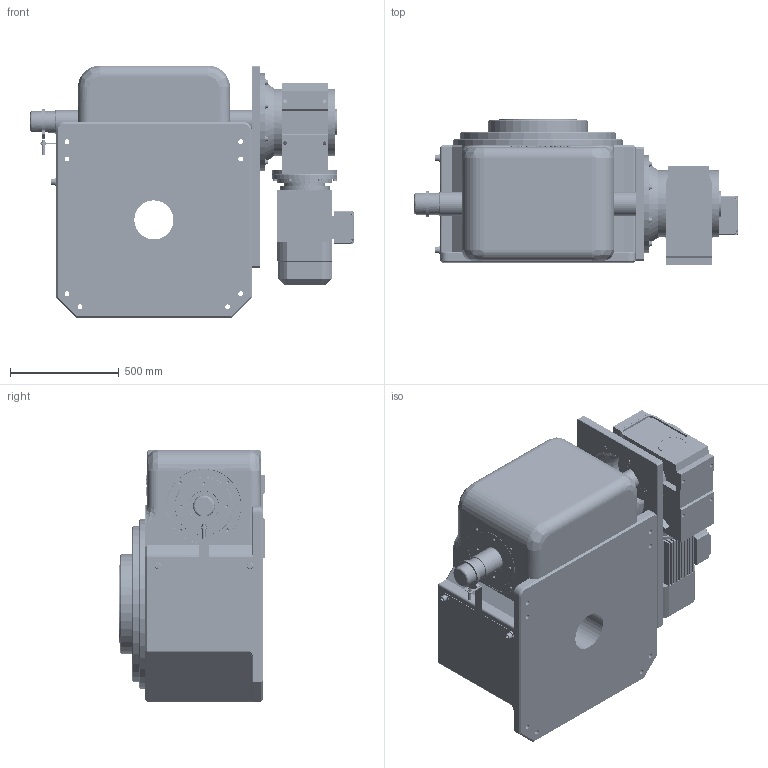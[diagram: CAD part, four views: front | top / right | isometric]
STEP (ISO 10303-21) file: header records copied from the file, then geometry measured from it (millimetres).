
FILE_DESCRIPTION (( 'STEP AP214' ), '1' );
FILE_NAME ('ER-RU450DT英锐凸轮分割器水平直联式右侧ZY(电话15062628977)A.STEP', '2019-05-25T04:45:09', ( '微软用户' ), ( '微软中国' ), 'SwSTEP 2.0', 'SolidWorks 2017', '' );
FILE_SCHEMA (( 'AUTOMOTIVE_DESIGN' ));
Length unit declared in the file: millimetre
Products named in the file (1): ER-RU450DT英锐凸轮分割器水平直联式右侧ZY(电话15062628977)A
Bounding box: 1491 x 670 x 1163 mm (x, y, z)
Volume: 591719414 mm3; surface area: 8348363.1 mm2
Topology: 3 solids, 3 shells, 3160 faces, 8317 edges, 5323 vertices
Faces by surface type: cylinder 1342, plane 1073, bspline 445, cone 300
Entity records: 199978 total; most frequent: CARTESIAN_POINT 129228, ORIENTED_EDGE 16470, DIRECTION 12008, EDGE_CURVE 8235, VERTEX_POINT 5323, LINE 4156, VECTOR 4156, AXIS2_PLACEMENT_3D 3926
